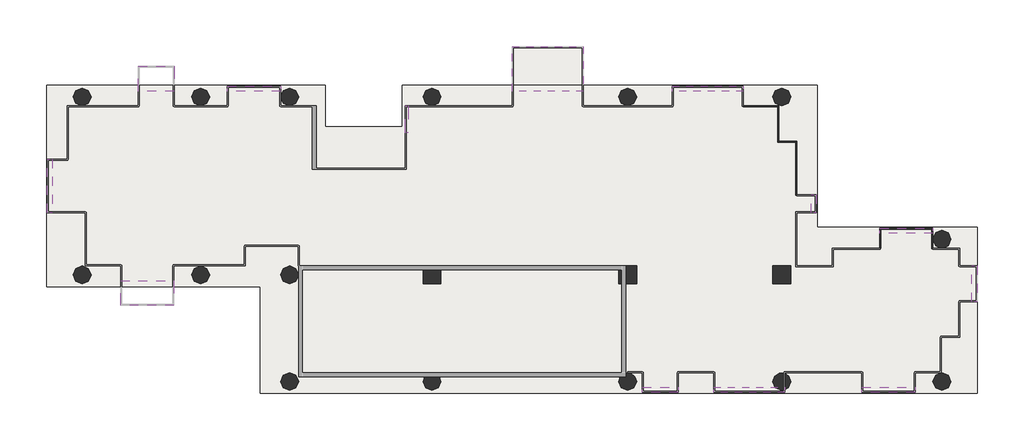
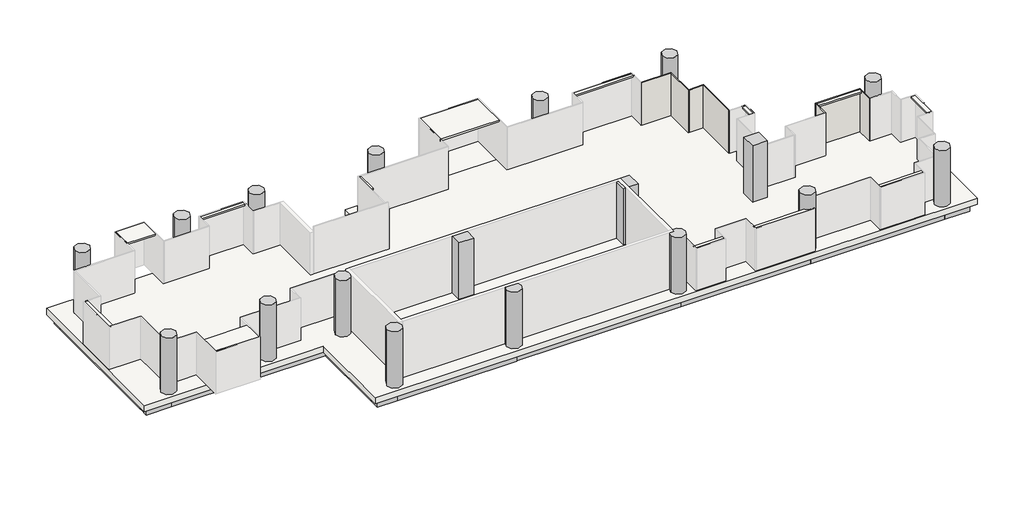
# One storey, part 2 of 2: 25 beams, 21 slabs, 18 columns, 7 walls.
"""IFC4 building model written with IfcOpenShell, lengths in millimetres."""

from ifc_helpers import new_model, si_unit, point, frame, frame_2d, origin, place, context, project, spatial, polyline, circle_curve, trimmed, segment, composite_curve, outline, extrude, faceted_brep, transform, mapped, element, save
from ifc_brep_helpers import plane_surface, cylinder_surface, advanced_brep
from components import ajn_arc_ossature_rec_ba_700x600_5242ffbb, ajn_arc_ossature_rec_ba_700x600_213c05e2, ajn_arc_ossature_rec_ba_700x600_4d623bda, ajn_arc_ossature_rec_ba_700x600_c2a8f1af, ajn_arc_ossature_rec_ba_700x600_b2f97811, ajn_arc_ossature_rec_ba_700x600_e688680c, ajn_arc_ossature_rec_ba_700x600_8adee879, ajn_arc_ossature_rec_ba_700x600_6677e51c, ajn_arc_ossature_rec_ba_700x600_60e35d56, ajn_arc_ossature_rec_ba_700x600_9ae0f913, ajn_arc_ossature_rec_ba_700x600_5c14351b, ajn_arc_ossature_rec_ba_700x600_e883967f, ajn_arc_ossature_rec_ba_700x600_0984b03c, ajn_arc_ossature_rec_ba_700x600_78f846f2, ajn_arc_ossature_rec_ba_700x600_e869caa8, ajn_arc_ossature_rec_ba_700x600_0388eb48, ajn_arc_ossature_rec_ba_700x600_e143517c, ajn_arc_ossature_rec_ba_700x600_758f1bfa, ajn_arc_ossature_rec_ba_700x600_64ba80e1

model = new_model("IFC4")

# Units and contexts
model_context = context("Model", 3, world=origin())
ifc_project = project(units=[si_unit("LENGTHUNIT", "METRE", prefix="MILLI")], contexts=[model_context])

# Site, building, storey
site = spatial("IfcSite", under=ifc_project)
building = spatial("IfcBuilding", under=site)
storey = spatial("IfcBuildingStorey", under=building, Name="TW-L 18", Elevation=63999.9999686)

# Beams
placement = place(None, origin())
ajn_arc_ossature_rec_ba_700x600_shape = ajn_arc_ossature_rec_ba_700x600_5242ffbb(model_context)
element("IfcBeam", 1, ObjectType="AJN-ARC-OSSATURE REC-BA : 700x600", at=placement, inside=storey, context=model_context, shape_type="MappedRepresentation", body=[
    mapped(ajn_arc_ossature_rec_ba_700x600_shape, transform((119350.0, 39300.0, 63449.9999686), x_axis=(-1.0, 0.0, 0.0), y_axis=(0.0, -1.0, 0.0), z_axis=(0.0, 0.0, 1.0))),
])
ajn_arc_ossature_rec_ba_700x600_2_shape = ajn_arc_ossature_rec_ba_700x600_213c05e2(model_context)
element("IfcBeam", 2, ObjectType="AJN-ARC-OSSATURE REC-BA : 700x600", at=placement, inside=storey, context=model_context, shape_type="MappedRepresentation", body=[
    mapped(ajn_arc_ossature_rec_ba_700x600_2_shape, transform((100900.0, 34800.0, 63449.9999686), x_axis=(0.0, -1.0, 0.0), y_axis=(1.0, 0.0, 0.0), z_axis=(0.0, 0.0, 1.0))),
])
ajn_arc_ossature_rec_ba_700x600_3_shape = ajn_arc_ossature_rec_ba_700x600_4d623bda(model_context)
element("IfcBeam", 3, ObjectType="AJN-ARC-OSSATURE REC-BA : 700x600", at=placement, inside=storey, context=model_context, shape_type="MappedRepresentation", body=[
    mapped(ajn_arc_ossature_rec_ba_700x600_3_shape, transform((112150.0, 24900.0, 63449.9999686), x_axis=(1.0, 0.0, 0.0), y_axis=(0.0, 1.0, 0.0), z_axis=(0.0, 0.0, 1.0))),
])
ajn_arc_ossature_rec_ba_700x600_4_shape = ajn_arc_ossature_rec_ba_700x600_c2a8f1af(model_context)
element("IfcBeam", 4, ObjectType="AJN-ARC-OSSATURE REC-BA : 700x600", at=placement, inside=storey, context=model_context, shape_type="MappedRepresentation", body=[
    mapped(ajn_arc_ossature_rec_ba_700x600_4_shape, transform((116200.0, 24900.0, 63449.9999686), x_axis=(1.0, 0.0, 0.0), y_axis=(0.0, 1.0, 0.0), z_axis=(0.0, 0.0, 1.0))),
])
ajn_arc_ossature_rec_ba_700x600_5_shape = ajn_arc_ossature_rec_ba_700x600_b2f97811(model_context)
element("IfcBeam", 5, ObjectType="AJN-ARC-OSSATURE REC-BA : 700x600", at=placement, inside=storey, context=model_context, shape_type="MappedRepresentation", body=[
    mapped(ajn_arc_ossature_rec_ba_700x600_5_shape, transform((106900.0, 30300.0, 63449.9999686), x_axis=(1.0, 0.0, 0.0), y_axis=(0.0, 1.0, 0.0), z_axis=(0.0, 0.0, 1.0))),
])
ajn_arc_ossature_rec_ba_700x600_6_shape = ajn_arc_ossature_rec_ba_700x600_e688680c(model_context)
element("IfcBeam", 6, ObjectType="AJN-ARC-OSSATURE REC-BA : 700x600", at=placement, inside=storey, context=model_context, shape_type="MappedRepresentation", body=[
    mapped(ajn_arc_ossature_rec_ba_700x600_6_shape, transform((111700.0, 27600.0, 63449.9999686), x_axis=(0.0, -1.0, 0.0), y_axis=(1.0, 0.0, 0.0), z_axis=(0.0, 0.0, 1.0))),
])
ajn_arc_ossature_rec_ba_700x600_7_shape = ajn_arc_ossature_rec_ba_700x600_8adee879(model_context)
element("IfcBeam", 7, ObjectType="AJN-ARC-OSSATURE REC-BA : 700x600", at=placement, inside=storey, context=model_context, shape_type="MappedRepresentation", body=[
    mapped(ajn_arc_ossature_rec_ba_700x600_7_shape, transform((124750.0, 24900.0, 63449.9999686), x_axis=(1.0, 0.0, 0.0), y_axis=(0.0, 1.0, 0.0), z_axis=(0.0, 0.0, 1.0))),
])
element("IfcBeam", 8, ObjectType="AJN-ARC-OSSATURE REC-BA : 700x600", at=placement, inside=storey, context=model_context, shape_type="MappedRepresentation", body=[
    mapped(ajn_arc_ossature_rec_ba_700x600_7_shape, transform((124750.0, 39300.0, 63449.9999686), x_axis=(-1.0, 0.0, 0.0), y_axis=(0.0, -1.0, 0.0), z_axis=(0.0, 0.0, 1.0))),
])
ajn_arc_ossature_rec_ba_700x600_8_shape = ajn_arc_ossature_rec_ba_700x600_6677e51c(model_context)
element("IfcBeam", 9, ObjectType="AJN-ARC-OSSATURE REC-BA : 700x600", at=placement, inside=storey, context=model_context, shape_type="MappedRepresentation", body=[
    mapped(ajn_arc_ossature_rec_ba_700x600_8_shape, transform((133600.0, 24900.0, 63449.9999686), x_axis=(1.0, 0.0, 0.0), y_axis=(0.0, 1.0, 0.0), z_axis=(0.0, 0.0, 1.0))),
])
ajn_arc_ossature_rec_ba_700x600_9_shape = ajn_arc_ossature_rec_ba_700x600_60e35d56(model_context)
element("IfcBeam", 10, ObjectType="AJN-ARC-OSSATURE REC-BA : 700x600", at=placement, inside=storey, context=model_context, shape_type="MappedRepresentation", body=[
    mapped(ajn_arc_ossature_rec_ba_700x600_9_shape, transform((141550.0, 24900.0, 63449.9999686), x_axis=(1.0, 0.0, 0.0), y_axis=(0.0, 1.0, 0.0), z_axis=(0.0, 0.0, 1.0))),
])
ajn_arc_ossature_rec_ba_700x600_10_shape = ajn_arc_ossature_rec_ba_700x600_9ae0f913(model_context)
element("IfcBeam", 11, ObjectType="AJN-ARC-OSSATURE REC-BA : 700x600", at=placement, inside=storey, context=model_context, shape_type="MappedRepresentation", body=[
    mapped(ajn_arc_ossature_rec_ba_700x600_10_shape, transform((146200.0, 24900.0, 63449.9999686), x_axis=(1.0, 0.0, 0.0), y_axis=(0.0, 1.0, 0.0), z_axis=(0.0, 0.0, 1.0))),
])
element("IfcBeam", 12, ObjectType="AJN-ARC-OSSATURE REC-BA : 700x600", at=placement, inside=storey, context=model_context, shape_type="MappedRepresentation", body=[
    mapped(ajn_arc_ossature_rec_ba_700x600_10_shape, transform((101500.0, 39300.0, 63449.9999686), x_axis=(-1.0, 0.0, 0.0), y_axis=(0.0, -1.0, 0.0), z_axis=(0.0, 0.0, 1.0))),
])
ajn_arc_ossature_rec_ba_700x600_11_shape = ajn_arc_ossature_rec_ba_700x600_5c14351b(model_context)
element("IfcBeam", 13, ObjectType="AJN-ARC-OSSATURE REC-BA : 700x600", at=placement, inside=storey, context=model_context, shape_type="MappedRepresentation", body=[
    mapped(ajn_arc_ossature_rec_ba_700x600_11_shape, transform((146800.0, 28500.0, 63449.9999686), x_axis=(0.0, 1.0, 0.0), y_axis=(-1.0, 0.0, 0.0), z_axis=(0.0, 0.0, 1.0))),
])
element("IfcBeam", 14, ObjectType="AJN-ARC-OSSATURE REC-BA : 700x600", at=placement, inside=storey, context=model_context, shape_type="MappedRepresentation", body=[
    mapped(ajn_arc_ossature_rec_ba_700x600_11_shape, transform((138700.0, 35700.0, 63449.9999686), x_axis=(0.0, 1.0, 0.0), y_axis=(-1.0, 0.0, 0.0), z_axis=(0.0, 0.0, 1.0))),
])
ajn_arc_ossature_rec_ba_700x600_12_shape = ajn_arc_ossature_rec_ba_700x600_e883967f(model_context)
element("IfcBeam", 15, ObjectType="AJN-ARC-OSSATURE REC-BA : 700x600", at=placement, inside=storey, context=model_context, shape_type="MappedRepresentation", body=[
    mapped(ajn_arc_ossature_rec_ba_700x600_12_shape, transform((146200.0, 32100.0, 63449.9999686), x_axis=(-1.0, 0.0, 0.0), y_axis=(0.0, -1.0, 0.0), z_axis=(0.0, 0.0, 1.0))),
])
element("IfcBeam", 16, ObjectType="AJN-ARC-OSSATURE REC-BA : 700x600", at=placement, inside=storey, context=model_context, shape_type="MappedRepresentation", body=[
    mapped(ajn_arc_ossature_rec_ba_700x600_12_shape, transform((138100.0, 39300.0, 63449.9999686), x_axis=(-1.0, 0.0, 0.0), y_axis=(0.0, -1.0, 0.0), z_axis=(0.0, 0.0, 1.0))),
])
element("IfcBeam", 17, ObjectType="AJN-ARC-OSSATURE REC-BA : 700x600", at=placement, inside=storey, context=model_context, shape_type="MappedRepresentation", body=[
    mapped(ajn_arc_ossature_rec_ba_700x600_12_shape, transform((113200.0, 39300.0, 63449.9999686), x_axis=(-1.0, 0.0, 0.0), y_axis=(0.0, -1.0, 0.0), z_axis=(0.0, 0.0, 1.0))),
])
element("IfcBeam", 18, ObjectType="AJN-ARC-OSSATURE REC-BA : 700x600", at=placement, inside=storey, context=model_context, shape_type="MappedRepresentation", body=[
    mapped(ajn_arc_ossature_rec_ba_700x600_12_shape, transform((101500.0, 30300.0, 63449.9999686), x_axis=(1.0, 0.0, 0.0), y_axis=(0.0, 1.0, 0.0), z_axis=(0.0, 0.0, 1.0))),
])
ajn_arc_ossature_rec_ba_700x600_13_shape = ajn_arc_ossature_rec_ba_700x600_0984b03c(model_context)
element("IfcBeam", 19, ObjectType="AJN-ARC-OSSATURE REC-BA : 700x600", at=placement, inside=storey, context=model_context, shape_type="MappedRepresentation", body=[
    mapped(ajn_arc_ossature_rec_ba_700x600_13_shape, transform((142150.0, 32100.0, 63449.9999686), x_axis=(-1.0, 0.0, 0.0), y_axis=(0.0, -1.0, 0.0), z_axis=(0.0, 0.0, 1.0))),
])
ajn_arc_ossature_rec_ba_700x600_14_shape = ajn_arc_ossature_rec_ba_700x600_78f846f2(model_context)
element("IfcBeam", 20, ObjectType="AJN-ARC-OSSATURE REC-BA : 700x600", at=placement, inside=storey, context=model_context, shape_type="MappedRepresentation", body=[
    mapped(ajn_arc_ossature_rec_ba_700x600_14_shape, transform((133600.0, 39300.0, 63449.9999686), x_axis=(-1.0, 0.0, 0.0), y_axis=(0.0, -1.0, 0.0), z_axis=(0.0, 0.0, 1.0))),
])
ajn_arc_ossature_rec_ba_700x600_15_shape = ajn_arc_ossature_rec_ba_700x600_e869caa8(model_context)
element("IfcBeam", 21, ObjectType="AJN-ARC-OSSATURE REC-BA : 700x600", at=placement, inside=storey, context=model_context, shape_type="MappedRepresentation", body=[
    mapped(ajn_arc_ossature_rec_ba_700x600_15_shape, transform((118900.0, 38250.0, 63449.9999686), x_axis=(0.0, -1.0, 0.0), y_axis=(1.0, 0.0, 0.0), z_axis=(0.0, 0.0, 1.0))),
])
ajn_arc_ossature_rec_ba_700x600_16_shape = ajn_arc_ossature_rec_ba_700x600_0388eb48(model_context)
element("IfcBeam", 22, ObjectType="AJN-ARC-OSSATURE REC-BA : 700x600", at=placement, inside=storey, context=model_context, shape_type="MappedRepresentation", body=[
    mapped(ajn_arc_ossature_rec_ba_700x600_16_shape, transform((110350.0, 39300.0, 63449.9999686), x_axis=(-1.0, 0.0, 0.0), y_axis=(0.0, -1.0, 0.0), z_axis=(0.0, 0.0, 1.0))),
])
ajn_arc_ossature_rec_ba_700x600_17_shape = ajn_arc_ossature_rec_ba_700x600_e143517c(model_context)
element("IfcBeam", 23, ObjectType="AJN-ARC-OSSATURE REC-BA : 700x600", at=placement, inside=storey, context=model_context, shape_type="MappedRepresentation", body=[
    mapped(ajn_arc_ossature_rec_ba_700x600_17_shape, transform((105100.0, 39300.0, 63449.9999686), x_axis=(-1.0, 0.0, 0.0), y_axis=(0.0, -1.0, 0.0), z_axis=(0.0, 0.0, 1.0))),
])
ajn_arc_ossature_rec_ba_700x600_18_shape = ajn_arc_ossature_rec_ba_700x600_758f1bfa(model_context)
element("IfcBeam", 24, ObjectType="AJN-ARC-OSSATURE REC-BA : 700x600", at=placement, inside=storey, context=model_context, shape_type="MappedRepresentation", body=[
    mapped(ajn_arc_ossature_rec_ba_700x600_18_shape, transform((116350.0, 37200.0, 63449.9999686), x_axis=(-1.0, 0.0, 0.0), y_axis=(0.0, -1.0, 0.0), z_axis=(0.0, 0.0, 1.0))),
])
ajn_arc_ossature_rec_ba_700x600_19_shape = ajn_arc_ossature_rec_ba_700x600_64ba80e1(model_context)
element("IfcBeam", 25, ObjectType="AJN-ARC-OSSATURE REC-BA : 700x600", at=placement, inside=storey, context=model_context, shape_type="MappedRepresentation", body=[
    mapped(ajn_arc_ossature_rec_ba_700x600_19_shape, transform((113800.0, 38250.0, 63449.9999686), x_axis=(0.0, 1.0, 0.0), y_axis=(-1.0, 0.0, 0.0), z_axis=(0.0, 0.0, 1.0))),
])

# Columns
element("IfcColumn", 26, ObjectType="AJN-ARC-POTEAU CIRCULAIRE : ø90", at=placement, inside=storey, context=model_context, shape_type="SweptSolid", body=[
    extrude(outline(composite_curve([segment(trimmed(circle_curve(frame_2d((102100.0, 39300.0)), 450.0), [point((101650.0, 39300.0))], [point((102550.0, 39300.0))], False, "CARTESIAN"), True, "CONTINUOUS"), segment(trimmed(circle_curve(frame_2d((102100.0, 39300.0)), 450.0), [point((102550.0, 39300.0))], [point((101650.0, 39300.0))], False, "CARTESIAN"), True, "CONTINUOUS")], self_intersect=False)), frame((0.0, 0.0, 63999.9999686), z_axis=(0.0, 0.0, 1.0), x_axis=(1.0, 0.0, 0.0)), (0.0, 0.0, 1.0), 3600.0),
])
element("IfcColumn", 27, ObjectType="AJN-ARC-POTEAU CIRCULAIRE : ø90", at=placement, inside=storey, context=model_context, shape_type="SweptSolid", body=[
    extrude(outline(composite_curve([segment(trimmed(circle_curve(frame_2d((102100.0, 30300.0)), 450.0), [point((101650.0, 30300.0))], [point((102550.0, 30300.0))], False, "CARTESIAN"), True, "CONTINUOUS"), segment(trimmed(circle_curve(frame_2d((102100.0, 30300.0)), 450.0), [point((102550.0, 30300.0))], [point((101650.0, 30300.0))], False, "CARTESIAN"), True, "CONTINUOUS")], self_intersect=False)), frame((0.0, 0.0, 63999.9999686), z_axis=(0.0, 0.0, 1.0), x_axis=(1.0, 0.0, 0.0)), (0.0, 0.0, 1.0), 3600.0),
])
element("IfcColumn", 28, ObjectType="AJN-ARC-POTEAU CIRCULAIRE : ø90", at=placement, inside=storey, context=model_context, shape_type="SweptSolid", body=[
    extrude(outline(composite_curve([segment(trimmed(circle_curve(frame_2d((108100.0, 30300.0)), 450.0), [point((107650.0, 30300.0))], [point((108550.0, 30300.0))], False, "CARTESIAN"), True, "CONTINUOUS"), segment(trimmed(circle_curve(frame_2d((108100.0, 30300.0)), 450.0), [point((108550.0, 30300.0))], [point((107650.0, 30300.0))], False, "CARTESIAN"), True, "CONTINUOUS")], self_intersect=False)), frame((0.0, 0.0, 63999.9999686), z_axis=(0.0, 0.0, 1.0), x_axis=(1.0, 0.0, 0.0)), (0.0, 0.0, 1.0), 3600.0),
])
element("IfcColumn", 29, ObjectType="AJN-ARC-POTEAU CIRCULAIRE : ø90", at=placement, inside=storey, context=model_context, shape_type="SweptSolid", body=[
    extrude(outline(composite_curve([segment(trimmed(circle_curve(frame_2d((108100.0, 39300.0)), 450.0), [point((107650.0, 39300.0))], [point((108550.0, 39300.0))], False, "CARTESIAN"), True, "CONTINUOUS"), segment(trimmed(circle_curve(frame_2d((108100.0, 39300.0)), 450.0), [point((108550.0, 39300.0))], [point((107650.0, 39300.0))], False, "CARTESIAN"), True, "CONTINUOUS")], self_intersect=False)), frame((0.0, 0.0, 63999.9999686), z_axis=(0.0, 0.0, 1.0), x_axis=(1.0, 0.0, 0.0)), (0.0, 0.0, 1.0), 3600.0),
])
element("IfcColumn", 30, ObjectType="AJN-ARC-POTEAU CIRCULAIRE : ø90", at=placement, inside=storey, context=model_context, shape_type="SweptSolid", body=[
    extrude(outline(composite_curve([segment(trimmed(circle_curve(frame_2d((112600.0, 39300.0)), 450.0), [point((112150.0, 39300.0))], [point((113050.0, 39300.0))], False, "CARTESIAN"), True, "CONTINUOUS"), segment(trimmed(circle_curve(frame_2d((112600.0, 39300.0)), 450.0), [point((113050.0, 39300.0))], [point((112150.0, 39300.0))], False, "CARTESIAN"), True, "CONTINUOUS")], self_intersect=False)), frame((0.0, 0.0, 63999.9999686), z_axis=(0.0, 0.0, 1.0), x_axis=(1.0, 0.0, 0.0)), (0.0, 0.0, 1.0), 3600.0),
])
element("IfcColumn", 31, ObjectType="AJN-ARC-POTEAU CIRCULAIRE : ø90", at=placement, inside=storey, context=model_context, shape_type="SweptSolid", body=[
    extrude(outline(composite_curve([segment(trimmed(circle_curve(frame_2d((112600.0, 30300.0)), 450.0), [point((112150.0, 30300.0))], [point((113050.0, 30300.0))], False, "CARTESIAN"), True, "CONTINUOUS"), segment(trimmed(circle_curve(frame_2d((112600.0, 30300.0)), 450.0), [point((113050.0, 30300.0))], [point((112150.0, 30300.0))], False, "CARTESIAN"), True, "CONTINUOUS")], self_intersect=False)), frame((0.0, 0.0, 63999.9999686), z_axis=(0.0, 0.0, 1.0), x_axis=(1.0, 0.0, 0.0)), (0.0, 0.0, 1.0), 3600.0),
])
element("IfcColumn", 32, ObjectType="AJN-ARC-POTEAU CIRCULAIRE : ø90", at=placement, inside=storey, context=model_context, shape_type="SweptSolid", body=[
    extrude(outline(composite_curve([segment(trimmed(circle_curve(frame_2d((112600.0, 24900.0)), 450.0), [point((112150.0, 24900.0))], [point((113050.0, 24900.0))], False, "CARTESIAN"), True, "CONTINUOUS"), segment(trimmed(circle_curve(frame_2d((112600.0, 24900.0)), 450.0), [point((113050.0, 24900.0))], [point((112150.0, 24900.0))], False, "CARTESIAN"), True, "CONTINUOUS")], self_intersect=False)), frame((0.0, 0.0, 63999.9999686), z_axis=(0.0, 0.0, 1.0), x_axis=(1.0, 0.0, 0.0)), (0.0, 0.0, 1.0), 3600.0),
])
element("IfcColumn", 33, ObjectType="AJN-ARC-POTEAU CIRCULAIRE : ø90", at=placement, inside=storey, context=model_context, shape_type="SweptSolid", body=[
    extrude(outline(composite_curve([segment(trimmed(circle_curve(frame_2d((119800.0, 24900.0)), 450.0), [point((120250.0, 24900.0))], [point((119350.0, 24900.0))], False, "CARTESIAN"), True, "CONTINUOUS"), segment(trimmed(circle_curve(frame_2d((119800.0, 24900.0)), 450.0), [point((119350.0, 24900.0))], [point((119425.8342613, 25150.0))], False, "CARTESIAN"), True, "CONTINUOUS"), segment(polyline([(119425.8342613, 25150.0), (120174.1657387, 25150.0)]), True, "CONTINUOUS"), segment(trimmed(circle_curve(frame_2d((119800.0, 24900.0)), 450.0), [point((120174.1657387, 25150.0))], [point((120250.0, 24900.0))], False, "CARTESIAN"), True, "CONTINUOUS")], self_intersect=False)), frame((0.0, 0.0, 63999.9999686), z_axis=(0.0, 0.0, 1.0), x_axis=(1.0, 0.0, 0.0)), (0.0, 0.0, 1.0), 3600.0),
])
element("IfcColumn", 34, ObjectType="AJN-ARC-POTEAU CIRCULAIRE : ø90", at=placement, inside=storey, context=model_context, shape_type="SweptSolid", body=[
    extrude(outline(composite_curve([segment(trimmed(circle_curve(frame_2d((119800.0, 39300.0)), 450.0), [point((119350.0, 39300.0))], [point((120250.0, 39300.0))], False, "CARTESIAN"), True, "CONTINUOUS"), segment(trimmed(circle_curve(frame_2d((119800.0, 39300.0)), 450.0), [point((120250.0, 39300.0))], [point((119350.0, 39300.0))], False, "CARTESIAN"), True, "CONTINUOUS")], self_intersect=False)), frame((0.0, 0.0, 63999.9999686), z_axis=(0.0, 0.0, 1.0), x_axis=(1.0, 0.0, 0.0)), (0.0, 0.0, 1.0), 3600.0),
])
element("IfcColumn", 35, ObjectType="AJN-ARC-POTEAU CIRCULAIRE : ø90", at=placement, inside=storey, context=model_context, shape_type="SweptSolid", body=[
    extrude(outline(composite_curve([segment(trimmed(circle_curve(frame_2d((129700.0, 39300.0)), 450.0), [point((129250.0, 39300.0))], [point((130150.0, 39300.0))], False, "CARTESIAN"), True, "CONTINUOUS"), segment(trimmed(circle_curve(frame_2d((129700.0, 39300.0)), 450.0), [point((130150.0, 39300.0))], [point((129250.0, 39300.0))], False, "CARTESIAN"), True, "CONTINUOUS")], self_intersect=False)), frame((0.0, 0.0, 63999.9999686), z_axis=(0.0, 0.0, 1.0), x_axis=(1.0, 0.0, 0.0)), (0.0, 0.0, 1.0), 3600.0),
])
element("IfcColumn", 36, ObjectType="AJN-ARC-POTEAU CIRCULAIRE : ø90", at=placement, inside=storey, context=model_context, shape_type="SweptSolid", body=[
    extrude(outline(composite_curve([segment(trimmed(circle_curve(frame_2d((129700.0, 24900.0)), 450.0), [point((130150.0, 24900.0))], [point((129250.0, 24900.0))], False, "CARTESIAN"), True, "CONTINUOUS"), segment(trimmed(circle_curve(frame_2d((129700.0, 24900.0)), 450.0), [point((129250.0, 24900.0))], [point((129325.8342613, 25150.0))], False, "CARTESIAN"), True, "CONTINUOUS"), segment(polyline([(129325.8342613, 25150.0), (129600.0, 25150.0), (129600.0, 25338.7482194)]), True, "CONTINUOUS"), segment(trimmed(circle_curve(frame_2d((129700.0, 24900.0)), 450.0), [point((129600.0, 25338.7482194))], [point((130150.0, 24900.0))], False, "CARTESIAN"), True, "CONTINUOUS")], self_intersect=False)), frame((0.0, 0.0, 63999.9999686), z_axis=(0.0, 0.0, 1.0), x_axis=(1.0, 0.0, 0.0)), (0.0, 0.0, 1.0), 3600.0),
])
element("IfcColumn", 37, ObjectType="AJN-ARC-POTEAU CIRCULAIRE : ø90", at=placement, inside=storey, context=model_context, shape_type="SweptSolid", body=[
    extrude(outline(composite_curve([segment(trimmed(circle_curve(frame_2d((137500.0, 39300.0)), 450.0), [point((137050.0, 39300.0))], [point((137950.0, 39300.0))], False, "CARTESIAN"), True, "CONTINUOUS"), segment(trimmed(circle_curve(frame_2d((137500.0, 39300.0)), 450.0), [point((137950.0, 39300.0))], [point((137050.0, 39300.0))], False, "CARTESIAN"), True, "CONTINUOUS")], self_intersect=False)), frame((0.0, 0.0, 63999.9999686), z_axis=(0.0, 0.0, 1.0), x_axis=(1.0, 0.0, 0.0)), (0.0, 0.0, 1.0), 3600.0),
])
element("IfcColumn", 38, ObjectType="AJN-ARC-POTEAU CIRCULAIRE : ø90", at=placement, inside=storey, context=model_context, shape_type="AdvancedBrep", body=[
    advanced_brep(
    [(137650.2351547, 25324.1808556, 63999.9999686), (137950.0, 24900.0, 63999.9999686), (137650.2351547, 24475.8191444, 63999.9999686), (137050.0, 24900.0, 67599.9999686), (137950.0, 24900.0, 67599.9999686), (137650.2351547, 25324.1808556, 66699.9999686), (137600.2351547, 25338.6945563, 66699.9999686), (137600.2351547, 25338.6945563, 63999.9999686), (137050.0, 24900.0, 63999.9999686), (137600.2351547, 24461.3054437, 63999.9999686), (137600.2351547, 24461.3054437, 66699.9999686), (137650.2351547, 24475.8191444, 66699.9999686)],
    [
        (0, 1, circle_curve(frame((137500.0, 24900.0, 63999.9999686), z_axis=(0.0, 0.0, -1.0), x_axis=(1.0, 0.0, 0.0)), 450.0)),
        (1, 2, circle_curve(frame((137500.0, 24900.0, 63999.9999686), z_axis=(0.0, 0.0, -1.0), x_axis=(1.0, 0.0, 0.0)), 450.0)),
        (2, 0),
        (3, 4, circle_curve(frame((137500.0, 24900.0, 67599.9999686), z_axis=(0.0, 0.0, -1.0), x_axis=(1.0, 0.0, 0.0)), 450.0)),
        (4, 1),
        (0, 5),
        (5, 6, circle_curve(frame((137500.0, 24900.0, 66699.9999686), z_axis=(0.0, 0.0, 1.0), x_axis=(1.0, 0.0, 0.0)), 450.0)),
        (6, 7),
        (7, 8, circle_curve(frame((137500.0, 24900.0, 63999.9999686), z_axis=(0.0, 0.0, 1.0), x_axis=(1.0, 0.0, 0.0)), 450.0)),
        (8, 3),
        (4, 3, circle_curve(frame((137500.0, 24900.0, 67599.9999686), z_axis=(0.0, 0.0, -1.0), x_axis=(1.0, 0.0, 0.0)), 450.0)),
        (8, 9, circle_curve(frame((137500.0, 24900.0, 63999.9999686), z_axis=(0.0, 0.0, 1.0), x_axis=(1.0, 0.0, 0.0)), 450.0)),
        (9, 10),
        (10, 11, circle_curve(frame((137500.0, 24900.0, 66699.9999686), z_axis=(0.0, 0.0, 1.0), x_axis=(1.0, 0.0, 0.0)), 450.0)),
        (11, 2),
        (11, 5),
        (6, 10),
        (9, 7),
    ],
    [
        plane_surface(frame((137950.0, 24900.0, 63999.9999686), z_axis=(0.0, 0.0, -1.0), x_axis=(0.0, -1.0, 0.0))),
        cylinder_surface(frame((137500.0, 24900.0, 63999.9999686), z_axis=(0.0, 0.0, 1.0), x_axis=(1.0, 0.0, 0.0)), 450.0),
        plane_surface(frame((137950.0, 24900.0, 67599.9999686), z_axis=(0.0, 0.0, 1.0), x_axis=(0.0, 1.0, 0.0))),
        plane_surface(frame((137650.2351547, 24375.0, 63999.9999686), z_axis=(-1.0, 0.0, 0.0), x_axis=(0.0, 1.0, 0.0))),
        plane_surface(frame((137600.2351547, 24375.0, 63999.9999686), z_axis=(1.0, 0.0, 0.0), x_axis=(0.0, -1.0, 0.0))),
        plane_surface(frame((137650.2351547, 25350.0, 66699.9999686), z_axis=(0.0, 0.0, -1.0), x_axis=(-1.0, 0.0, 0.0))),
    ],
    [
        (0, [[1, 2, 3]]),
        (1, [[4, 5, -1, 6, 7, 8, 9, 10]]),
        (1, [[-5, 11, -10, 12, 13, 14, 15, -2]]),
        (2, [[-4, -11]]),
        (3, [[16, -6, -3, -15]]),
        (4, [[17, -13, 18, -8]]),
        (5, [[-16, -14, -17, -7]]),
        (0, [[-9, -18, -12]]),
    ],
),
])
element("IfcColumn", 39, ObjectType="AJN-ARC-POTEAU CIRCULAIRE : ø90", at=placement, inside=storey, context=model_context, shape_type="SweptSolid", body=[
    extrude(outline(composite_curve([segment(trimmed(circle_curve(frame_2d((145600.0, 24900.0)), 450.0), [point((145150.0, 24900.0))], [point((146050.0, 24900.0))], False, "CARTESIAN"), True, "CONTINUOUS"), segment(trimmed(circle_curve(frame_2d((145600.0, 24900.0)), 450.0), [point((146050.0, 24900.0))], [point((145150.0, 24900.0))], False, "CARTESIAN"), True, "CONTINUOUS")], self_intersect=False)), frame((0.0, 0.0, 63999.9999686), z_axis=(0.0, 0.0, 1.0), x_axis=(1.0, 0.0, 0.0)), (0.0, 0.0, 1.0), 3600.0),
])
element("IfcColumn", 40, ObjectType="AJN-ARC-POTEAU CIRCULAIRE : ø90", at=placement, inside=storey, context=model_context, shape_type="AdvancedBrep", body=[
    advanced_brep(
    [(145150.0, 32100.0, 63999.9999686), (146050.0, 32100.0, 63999.9999686), (145638.6089983, 31651.6593424, 63999.9999686), (145561.3910017, 31651.6593424, 63999.9999686), (145150.0, 32100.0, 67599.9999686), (146050.0, 32100.0, 67599.9999686), (145561.3910017, 31651.6593424, 66699.9999686), (145638.6089983, 31651.6593424, 66699.9999686)],
    [
        (0, 1, circle_curve(frame((145600.0, 32100.0, 63999.9999686), z_axis=(0.0, 0.0, -1.0), x_axis=(1.0, 0.0, 0.0)), 450.0)),
        (1, 2, circle_curve(frame((145600.0, 32100.0, 63999.9999686), z_axis=(0.0, 0.0, -1.0), x_axis=(1.0, 0.0, 0.0)), 450.0)),
        (2, 3),
        (3, 0, circle_curve(frame((145600.0, 32100.0, 63999.9999686), z_axis=(0.0, 0.0, -1.0), x_axis=(1.0, 0.0, 0.0)), 450.0)),
        (0, 4),
        (4, 5, circle_curve(frame((145600.0, 32100.0, 67599.9999686), z_axis=(0.0, 0.0, -1.0), x_axis=(1.0, 0.0, 0.0)), 450.0)),
        (5, 1),
        (5, 4, circle_curve(frame((145600.0, 32100.0, 67599.9999686), z_axis=(0.0, 0.0, -1.0), x_axis=(1.0, 0.0, 0.0)), 450.0)),
        (3, 6),
        (6, 7, circle_curve(frame((145600.0, 32100.0, 66699.9999686), z_axis=(0.0, 0.0, 1.0), x_axis=(1.0, 0.0, 0.0)), 450.0)),
        (7, 2),
        (7, 6),
    ],
    [
        plane_surface(frame((146050.0, 32100.0, 63999.9999686), z_axis=(0.0, 0.0, -1.0), x_axis=(0.0, -1.0, 0.0))),
        cylinder_surface(frame((145600.0, 32100.0, 63999.9999686), z_axis=(0.0, 0.0, 1.0), x_axis=(1.0, 0.0, 0.0)), 450.0),
        plane_surface(frame((146050.0, 32100.0, 67599.9999686), z_axis=(0.0, 0.0, 1.0), x_axis=(0.0, 1.0, 0.0))),
        plane_surface(frame((146472.681474, 31651.6593424, 63999.9999686), z_axis=(0.0, -1.0, 0.0), x_axis=(-1.0, 0.0, 0.0))),
        plane_surface(frame((145150.0, 31651.6593424, 66699.9999686), z_axis=(0.0, 0.0, -1.0), x_axis=(0.0, -1.0, 0.0))),
    ],
    [
        (0, [[1, 2, 3, 4]]),
        (1, [[-1, 5, 6, 7]]),
        (1, [[-7, 8, -5, -4, 9, 10, 11, -2]]),
        (2, [[-6, -8]]),
        (3, [[12, -9, -3, -11]]),
        (4, [[-12, -10]]),
    ],
),
])
element("IfcColumn", 41, ObjectType="AJN-ARC-POTEAU RECTANGULAIRE : 900 mm x 900 mm", at=placement, inside=storey, context=model_context, shape_type="SweptSolid", body=[
    extrude(outline(polyline([(137950.0, 30750.0), (137950.0, 29850.0), (137050.0, 29850.0), (137050.0, 30750.0), (137950.0, 30750.0)])), frame((0.0, 0.0, 63999.9999686), z_axis=(0.0, 0.0, 1.0), x_axis=(1.0, 0.0, 0.0)), (0.0, 0.0, 1.0), 3600.0),
])
element("IfcColumn", 42, ObjectType="AJN-ARC-POTEAU RECTANGULAIRE : 900 mm x 900 mm", at=placement, inside=storey, context=model_context, shape_type="SweptSolid", body=[
    extrude(outline(polyline([(129400.0, 29850.0), (129250.0, 29850.0), (129250.0, 30550.0), (129400.0, 30550.0), (129400.0, 29850.0)])), frame((0.0, 0.0, 63999.9999686), z_axis=(0.0, 0.0, 1.0), x_axis=(1.0, 0.0, 0.0)), (0.0, 0.0, 1.0), 3600.0),
    extrude(outline(polyline([(130150.0, 30750.0), (130150.0, 29850.0), (129600.0, 29850.0), (129600.0, 30750.0), (130150.0, 30750.0)])), frame((0.0, 0.0, 63999.9999686), z_axis=(0.0, 0.0, 1.0), x_axis=(1.0, 0.0, 0.0)), (0.0, 0.0, 1.0), 3600.0),
])
element("IfcColumn", 43, ObjectType="AJN-ARC-POTEAU RECTANGULAIRE : 900 mm x 900 mm", at=placement, inside=storey, context=model_context, shape_type="SweptSolid", body=[
    extrude(outline(polyline([(120250.0, 29850.0), (119350.0, 29850.0), (119350.0, 30550.0), (120250.0, 30550.0), (120250.0, 29850.0)])), frame((0.0, 0.0, 63999.9999686), z_axis=(0.0, 0.0, 1.0), x_axis=(1.0, 0.0, 0.0)), (0.0, 0.0, 1.0), 3600.0),
])

# Slabs
element("IfcSlab", 44, ObjectType="AJN-ARC-SLAB-10cm", at=placement, inside=storey, context=model_context, shape_type="SweptSolid", body=[
    extrude(outline(polyline([(127463.0639015, 39900.0), (123863.0639015, 39900.0), (123863.0639015, 41850.0), (127463.0639015, 41850.0), (127463.0639015, 39900.0)])), frame((0.0, 0.0, 63900.0), z_axis=(0.0, 0.0, 1.0), x_axis=(1.0, 0.0, 0.0)), (0.0, 0.0, 1.0), 100.0),
])
element("IfcSlab", 45, ObjectType="AJN-ARC-SLAB-10cm", at=placement, inside=storey, context=model_context, shape_type="SweptSolid", body=[
    extrude(outline(polyline([(132250.0, 24350.0), (130450.0, 24350.0), (130450.0, 24600.0), (132250.0, 24600.0), (132250.0, 24350.0)])), frame((0.0, 0.0, 66599.9999686), z_axis=(0.0, 0.0, 1.0), x_axis=(1.0, 0.0, 0.0)), (0.0, 0.0, 1.0), 100.0),
])
element("IfcSlab", 46, ObjectType="AJN-ARC-SLAB-10cm", at=placement, inside=storey, context=model_context, shape_type="SweptSolid", body=[
    extrude(outline(polyline([(127463.0639015, 39600.0), (123863.0639015, 39600.0), (123863.0639015, 41850.0), (127463.0639015, 41850.0), (127463.0639015, 39600.0)])), frame((0.0, 0.0, 66599.9999686), z_axis=(0.0, 0.0, 1.0), x_axis=(1.0, 0.0, 0.0)), (0.0, 0.0, 1.0), 100.0),
])
element("IfcSlab", 47, ObjectType="AJN-ARC-SLAB-10cm", at=placement, inside=storey, context=model_context, shape_type="SweptSolid", body=[
    extrude(outline(polyline([(106750.0, 39600.0), (104950.0, 39600.0), (104950.0, 40850.0), (106750.0, 40850.0), (106750.0, 39600.0)])), frame((0.0, 0.0, 66599.9999686), z_axis=(0.0, 0.0, 1.0), x_axis=(1.0, 0.0, 0.0)), (0.0, 0.0, 1.0), 100.0),
])
element("IfcSlab", 48, ObjectType="AJN-ARC-SLAB-10cm", at=placement, inside=storey, context=model_context, shape_type="SweptSolid", body=[
    extrude(outline(polyline([(145150.0, 32400.0), (142450.0, 32400.0), (142450.0, 32651.6593424), (145150.0, 32651.6593424), (145150.0, 32400.0)])), frame((0.0, 0.0, 66599.9999686), z_axis=(0.0, 0.0, 1.0), x_axis=(1.0, 0.0, 0.0)), (0.0, 0.0, 1.0), 100.0),
])
element("IfcSlab", 49, ObjectType="AJN-ARC-SLAB-10cm", at=placement, inside=storey, context=model_context, shape_type="SweptSolid", body=[
    extrude(outline(polyline([(112150.0, 39600.0), (109450.0, 39600.0), (109450.0, 39850.0), (112150.0, 39850.0), (112150.0, 39600.0)])), frame((0.0, 0.0, 66599.9999686), z_axis=(0.0, 0.0, 1.0), x_axis=(1.0, 0.0, 0.0)), (0.0, 0.0, 1.0), 100.0),
])
element("IfcSlab", 50, ObjectType="AJN-ARC-SLAB-10cm", at=placement, inside=storey, context=model_context, shape_type="SweptSolid", body=[
    extrude(outline(polyline([(118600.0, 37500.0), (118450.0, 37500.0), (118450.0, 38850.0), (118600.0, 38850.0), (118600.0, 37500.0)])), frame((0.0, 0.0, 66599.9999686), z_axis=(0.0, 0.0, 1.0), x_axis=(1.0, 0.0, 0.0)), (0.0, 0.0, 1.0), 100.0),
])
element("IfcSlab", 51, ObjectType="AJN-ARC-SLAB-10cm", at=placement, inside=storey, context=model_context, shape_type="SweptSolid", body=[
    extrude(outline(polyline([(100600.0, 33450.0), (100347.1743518, 33450.0), (100347.1743518, 36150.0), (100600.0, 36150.0), (100600.0, 33450.0)])), frame((0.0, 0.0, 66599.9999686), z_axis=(0.0, 0.0, 1.0), x_axis=(1.0, 0.0, 0.0)), (0.0, 0.0, 1.0), 100.0),
])
element("IfcSlab", 52, ObjectType="AJN-ARC-SLAB-10cm", at=placement, inside=storey, context=model_context, shape_type="SweptSolid", body=[
    extrude(outline(polyline([(137650.2351547, 24350.0), (134050.2351547, 24350.0), (134050.2351547, 24600.0), (137650.2351547, 24600.0), (137650.2351547, 24350.0)])), frame((0.0, 0.0, 66599.9999686), z_axis=(0.0, 0.0, 1.0), x_axis=(1.0, 0.0, 0.0)), (0.0, 0.0, 1.0), 100.0),
])
element("IfcSlab", 53, ObjectType="AJN-ARC-SLAB-10cm", at=placement, inside=storey, context=model_context, shape_type="SweptSolid", body=[
    extrude(outline(polyline([(139250.0, 33450.0), (139000.0, 33450.0), (139000.0, 34350.0), (139250.0, 34350.0), (139250.0, 33450.0)])), frame((0.0, 0.0, 66599.9999686), z_axis=(0.0, 0.0, 1.0), x_axis=(1.0, 0.0, 0.0)), (0.0, 0.0, 1.0), 100.0),
])
element("IfcSlab", 54, ObjectType="AJN-ARC-SLAB-10cm", at=placement, inside=storey, context=model_context, shape_type="SweptSolid", body=[
    extrude(outline(polyline([(144250.0, 24350.0), (141550.0, 24350.0), (141550.0, 24600.0), (144250.0, 24600.0), (144250.0, 24350.0)])), frame((0.0, 0.0, 66599.9999686), z_axis=(0.0, 0.0, 1.0), x_axis=(1.0, 0.0, 0.0)), (0.0, 0.0, 1.0), 100.0),
])
element("IfcSlab", 55, ObjectType="AJN-ARC-SLAB-10cm", at=placement, inside=storey, context=model_context, shape_type="SweptSolid", body=[
    extrude(outline(polyline([(106747.1743518, 28750.0), (104047.1743518, 28750.0), (104047.1743518, 30000.0), (106747.1743518, 30000.0), (106747.1743518, 28750.0)])), frame((0.0, 0.0, 66599.9999686), z_axis=(0.0, 0.0, 1.0), x_axis=(1.0, 0.0, 0.0)), (0.0, 0.0, 1.0), 100.0),
])
element("IfcSlab", 56, ObjectType="AJN-ARC-SLAB-10cm", at=placement, inside=storey, context=model_context, shape_type="SweptSolid", body=[
    extrude(outline(polyline([(135550.0, 39600.0), (131950.0, 39600.0), (131950.0, 39850.0), (135550.0, 39850.0), (135550.0, 39600.0)])), frame((0.0, 0.0, 66599.9999686), z_axis=(0.0, 0.0, 1.0), x_axis=(1.0, 0.0, 0.0)), (0.0, 0.0, 1.0), 100.0),
])
element("IfcSlab", 57, ObjectType="AJN-ARC-SLAB-10cm", at=placement, inside=storey, context=model_context, shape_type="SweptSolid", body=[
    extrude(outline(polyline([(147397.681474, 28948.6421571), (147100.0, 28948.6421571), (147100.0, 30748.6421571), (147397.681474, 30748.6421571), (147397.681474, 28948.6421571)])), frame((0.0, 0.0, 66599.9999686), z_axis=(0.0, 0.0, 1.0), x_axis=(1.0, 0.0, 0.0)), (0.0, 0.0, 1.0), 100.0),
])
element("IfcSlab", 58, ObjectType="AJN-ARC-SLAB-10cm", at=placement, inside=storey, context=model_context, shape_type="SweptSolid", body=[
    extrude(outline(polyline([(147397.681474, 28948.6421571), (147100.0, 28948.6421571), (147100.0, 30748.6421571), (147397.681474, 30748.6421571), (147397.681474, 28948.6421571)])), frame((0.0, 0.0, 66599.9999686), z_axis=(0.0, 0.0, 1.0), x_axis=(1.0, 0.0, 0.0)), (0.0, 0.0, 1.0), 100.0),
])
element("IfcSlab", 59, ObjectType="AJN-ARC-SLAB-10cm", at=placement, inside=storey, context=model_context, shape_type="SweptSolid", body=[
    extrude(outline(polyline([(147397.681474, 28948.6421571), (147100.0, 28948.6421571), (147100.0, 30748.6421571), (147397.681474, 30748.6421571), (147397.681474, 28948.6421571)])), frame((0.0, 0.0, 66599.9999686), z_axis=(0.0, 0.0, 1.0), x_axis=(1.0, 0.0, 0.0)), (0.0, 0.0, 1.0), 100.0),
])
element("IfcSlab", 60, ObjectType="AJN-ARC-SLAB-10cm", at=placement, inside=storey, context=model_context, shape_type="SweptSolid", body=[
    extrude(outline(polyline([(147397.681474, 28948.6421571), (147100.0, 28948.6421571), (147100.0, 30748.6421571), (147397.681474, 30748.6421571), (147397.681474, 28948.6421571)])), frame((0.0, 0.0, 66599.9999686), z_axis=(0.0, 0.0, 1.0), x_axis=(1.0, 0.0, 0.0)), (0.0, 0.0, 1.0), 100.0),
])
element("IfcSlab", 61, ObjectType="AJN-ARC-SLAB-10cm", at=placement, inside=storey, context=model_context, shape_type="SweptSolid", body=[
    extrude(outline(polyline([(147397.681474, 28948.6421571), (147100.0, 28948.6421571), (147100.0, 30748.6421571), (147397.681474, 30748.6421571), (147397.681474, 28948.6421571)])), frame((0.0, 0.0, 66599.9999686), z_axis=(0.0, 0.0, 1.0), x_axis=(1.0, 0.0, 0.0)), (0.0, 0.0, 1.0), 100.0),
])
element("IfcSlab", 62, ObjectType="AJN-ARC-SLAB-10cm", at=placement, inside=storey, context=model_context, shape_type="SweptSolid", body=[
    extrude(outline(polyline([(147397.681474, 28948.6421571), (147100.0, 28948.6421571), (147100.0, 30748.6421571), (147397.681474, 30748.6421571), (147397.681474, 28948.6421571)])), frame((0.0, 0.0, 66599.9999686), z_axis=(0.0, 0.0, 1.0), x_axis=(1.0, 0.0, 0.0)), (0.0, 0.0, 1.0), 100.0),
])
element("IfcSlab", 63, ObjectType="AJN-ARC-SLAB-10cm", at=placement, inside=storey, context=model_context, shape_type="SweptSolid", body=[
    extrude(outline(polyline([(147397.681474, 28948.6421571), (147100.0, 28948.6421571), (147100.0, 30748.6421571), (147397.681474, 30748.6421571), (147397.681474, 28948.6421571)])), frame((0.0, 0.0, 66599.9999686), z_axis=(0.0, 0.0, 1.0), x_axis=(1.0, 0.0, 0.0)), (0.0, 0.0, 1.0), 100.0),
])
element("IfcSlab", 64, ObjectType="AJN-ARC-SLAB-40cm", at=placement, inside=storey, context=model_context, shape_type="SweptSolid", body=[
    extrude(outline(polyline([(147400.0, 24300.0), (111100.0, 24300.0), (111100.0, 29700.0), (100300.0, 29700.0), (100300.0, 39900.0), (114400.0, 39900.0), (114400.0, 37800.0), (118300.0, 37800.0), (118300.0, 39900.0), (139300.0, 39900.0), (139300.0, 32700.0), (147400.0, 32700.0), (147400.0, 24300.0)])), frame((0.0, 0.0, 63599.9999686), z_axis=(0.0, 0.0, 1.0), x_axis=(1.0, 0.0, 0.0)), (0.0, 0.0, 1.0), 400.0),
])

# Walls
element("IfcWall", 65, ObjectType="AJN-ARC-GLASS-50mm", at=placement, inside=storey, context=model_context, shape_type="Brep", body=[
    faceted_brep([(138250.0, 34325.0, 63999.9999686), (138250.0, 37050.0, 63999.9999686), (138250.0, 37050.0, 66699.9999686), (138250.0, 34325.0, 66699.9999686), (138200.0, 34325.0, 63999.9999686), (138200.0, 34325.0, 66699.9999686), (138200.0, 37000.0, 66699.9999686), (138200.0, 37050.0, 66699.9999686), (138200.0, 37050.0, 63999.9999686), (138200.0, 37000.0, 63999.9999686)], [[[0, 1, 2, 3]], [[4, 5, 6, 7, 8, 9]], [[1, 0, 4, 9, 8]], [[3, 2, 7, 6, 5]], [[0, 3, 5, 4]], [[2, 1, 8, 7]]]),
])
element("IfcWall", 66, ObjectType="AJN-ARC-GLASS-50mm", at=placement, inside=storey, context=model_context, shape_type="SweptSolid", body=[
    extrude(outline(polyline([(137350.0, 37050.0), (138200.0, 37050.0), (138200.0, 37000.0), (137350.0, 37000.0), (137350.0, 37050.0)])), frame((0.0, 0.0, 63999.9999686), z_axis=(0.0, 0.0, 1.0), x_axis=(1.0, 0.0, 0.0)), (0.0, 0.0, 1.0), 2700.0),
])
element("IfcWall", 67, ObjectType="AJN-ARC-GLASS-50mm", at=placement, inside=storey, context=model_context, shape_type="Brep", body=[
    faceted_brep([(137350.0, 37000.0, 63999.9999686), (137350.0, 37050.0, 63999.9999686), (137350.0, 38850.0, 63999.9999686), (137350.0, 38850.0, 66699.9999686), (137350.0, 37050.0, 66699.9999686), (137350.0, 37000.0, 66699.9999686), (137300.0, 37000.0, 63999.9999686), (137300.0, 37000.0, 66699.9999686), (137300.0, 38800.0, 66699.9999686), (137300.0, 38850.0, 66699.9999686), (137300.0, 38850.0, 63999.9999686), (137300.0, 38800.0, 63999.9999686)], [[[0, 1, 2, 3, 4, 5]], [[6, 7, 8, 9, 10, 11]], [[2, 1, 0, 6, 11, 10]], [[5, 4, 3, 9, 8, 7]], [[3, 2, 10, 9]], [[0, 5, 7, 6]]]),
])
element("IfcWall", 68, ObjectType="AJN-ARC-GLASS-50mm", at=placement, inside=storey, context=model_context, shape_type="SweptSolid", body=[
    extrude(outline(polyline([(135550.0, 38850.0), (137300.0, 38850.0), (137300.0, 38800.0), (135550.0, 38800.0), (135550.0, 38850.0)])), frame((0.0, 0.0, 63999.9999686), z_axis=(0.0, 0.0, 1.0), x_axis=(1.0, 0.0, 0.0)), (0.0, 0.0, 1.0), 2700.0),
])
element("IfcWall", 69, ObjectType="AJN-ARC-GLASS-50mm", at=placement, inside=storey, context=model_context, shape_type="Brep", body=[
    faceted_brep([(145150.0, 31626.6593424, 63999.9999686), (145150.0, 32651.6593424, 63999.9999686), (145150.0, 32651.6593424, 66699.9999686), (145150.0, 31626.6593424, 66699.9999686), (145100.0, 31626.6593424, 63999.9999686), (145100.0, 31626.6593424, 66699.9999686), (145100.0, 32601.6593424, 66699.9999686), (145100.0, 32651.6593424, 66699.9999686), (145100.0, 32651.6593424, 63999.9999686), (145100.0, 32601.6593424, 63999.9999686)], [[[0, 1, 2, 3]], [[4, 5, 6, 7, 8, 9]], [[1, 0, 4, 9, 8]], [[3, 2, 7, 6, 5]], [[0, 3, 5, 4]], [[2, 1, 8, 7]]]),
])
element("IfcWall", 70, ObjectType="AJN-ARC-GLASS-50mm", at=placement, inside=storey, context=model_context, shape_type="Brep", body=[
    faceted_brep([(145100.0, 32651.6593424, 63999.9999686), (142450.0, 32651.6593424, 63999.9999686), (142450.0, 32651.6593424, 66699.9999686), (145100.0, 32651.6593424, 66699.9999686), (145100.0, 32601.6593424, 63999.9999686), (145100.0, 32601.6593424, 66699.9999686), (142500.0, 32601.6593424, 66699.9999686), (142450.0, 32601.6593424, 66699.9999686), (142450.0, 32601.6593424, 63999.9999686), (142500.0, 32601.6593424, 63999.9999686)], [[[0, 1, 2, 3]], [[4, 5, 6, 7, 8, 9]], [[1, 0, 4, 9, 8]], [[3, 2, 7, 6, 5]], [[2, 1, 8, 7]], [[0, 3, 5, 4]]]),
])
element("IfcWall", 71, ObjectType="AJN-ARC-GLASS-50mm", at=placement, inside=storey, context=model_context, shape_type="SweptSolid", body=[
    extrude(outline(polyline([(142450.0, 31651.6593424), (142450.0, 32601.6593424), (142500.0, 32601.6593424), (142500.0, 31651.6593424), (142450.0, 31651.6593424)])), frame((0.0, 0.0, 63999.9999686), z_axis=(0.0, 0.0, 1.0), x_axis=(1.0, 0.0, 0.0)), (0.0, 0.0, 1.0), 2700.0),
])

save(model, "model.ifc")
